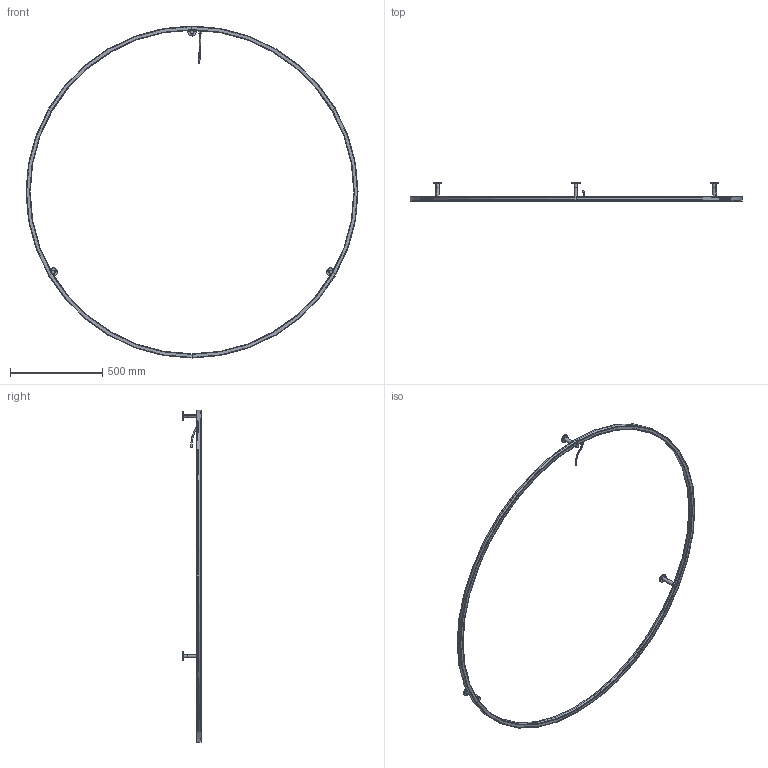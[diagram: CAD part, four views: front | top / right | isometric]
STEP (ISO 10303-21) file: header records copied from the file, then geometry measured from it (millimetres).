
FILE_DESCRIPTION (( 'STEP AP203' ), '1' );
FILE_NAME ('PLUL1180LED-PER 3D.STEP', '2024-05-28T17:07:34', ( '' ), ( '' ), 'SwSTEP 2.0', 'SolidWorks 2024', '' );
FILE_SCHEMA (( 'CONFIG_CONTROL_DESIGN' ));
Length unit declared in the file: millimetre
Products named in the file (11): ASSIEME ANELLO 180 MODULI LED; PLUL1180LED-PER 3D; TANG YAO-7727-P415 + RIV TESSILE 33- PER ANELLI; WSA5068-03-6-0-11-; ACPLULA100XXXXX; PLULA180LEDANXX; WSCM2D0032-0700-00; WSCM2A0028-0700-01; WSCM2A0030-0700-01; WSCP2F0011-0403-00; WSCM2A0022-0700-00
Assembly tree (17 placements, depth 4):
  PLUL1180LED-PER 3D
    PLULA180LEDANXX
      ASSIEME ANELLO 180 MODULI LED
        WSCM2D0032-0700-00
        WSCP2F0011-0403-00  x6
        WSCM2A0022-0700-00
      WSA5068-03-6-0-11-
    ACPLULA100XXXXX  x3
      WSCM2A0030-0700-01
      WSCM2A0028-0700-01
    TANG YAO-7727-P415 + RIV TESSILE 33- PER ANELLI
Bounding box: 1800 x 101.5 x 1800 mm (x, y, z)
Volume: 1648474.7 mm3; surface area: 1123379.1 mm2
Topology: 16 solids, 16 shells, 493 faces, 1136 edges, 686 vertices
Faces by surface type: cylinder 152, plane 126, cone 121, torus 74, bspline 20
Entity records: 17517 total; most frequent: CARTESIAN_POINT 9450, DIRECTION 1495, ORIENTED_EDGE 1358, EDGE_CURVE 679, AXIS2_PLACEMENT_3D 646, VERTEX_POINT 410, CIRCLE 345, EDGE_LOOP 329
